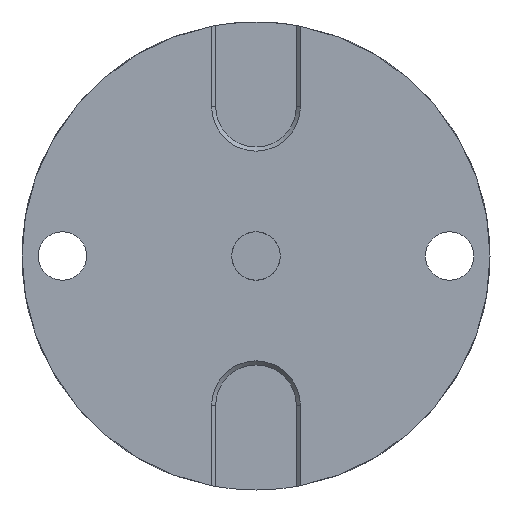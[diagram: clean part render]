
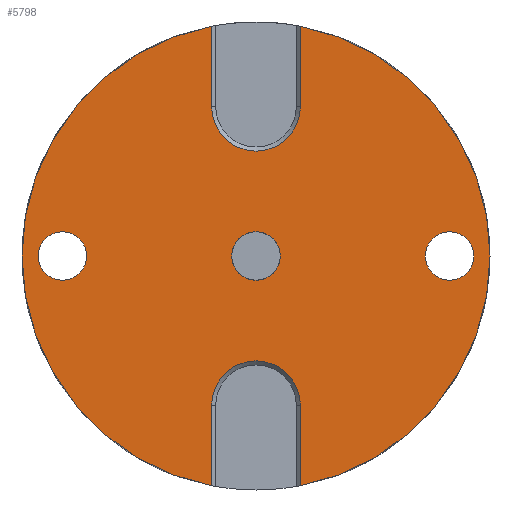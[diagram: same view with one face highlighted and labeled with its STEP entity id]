
A CAD part, front view. The second image highlights one B-rep face of the part: STEP entity #5798.
In plain terms, the highlighted planar face has unit normal (0, -1, 0).
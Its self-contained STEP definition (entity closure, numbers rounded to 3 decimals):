
#105 = CARTESIAN_POINT ( 'NONE',  ( 11., 0., 37. ) ) ;
#154 = AXIS2_PLACEMENT_3D ( 'NONE', #7487, #425, #3931 ) ;
#164 = FACE_BOUND ( 'NONE', #4778, .T. ) ;
#170 = CIRCLE ( 'NONE', #4146, 6. ) ;
#219 = CARTESIAN_POINT ( 'NONE',  ( 0., 0., -37. ) ) ;
#229 = DIRECTION ( 'NONE',  ( 0., 0., -1. ) ) ;
#241 = CARTESIAN_POINT ( 'NONE',  ( -11., 0., 0. ) ) ;
#363 = ORIENTED_EDGE ( 'NONE', *, *, #3013, .T. ) ;
#425 = DIRECTION ( 'NONE',  ( 0., 1., 0. ) ) ;
#631 = DIRECTION ( 'NONE',  ( 0., -1., 0. ) ) ;
#644 = DIRECTION ( 'NONE',  ( 0., 0., -1. ) ) ;
#646 = CARTESIAN_POINT ( 'NONE',  ( -48., 0., 6. ) ) ;
#656 = VERTEX_POINT ( 'NONE', #6804 ) ;
#823 = CARTESIAN_POINT ( 'NONE',  ( -11., 0., 0. ) ) ;
#845 = DIRECTION ( 'NONE',  ( 0., 0., -1. ) ) ;
#1019 = AXIS2_PLACEMENT_3D ( 'NONE', #6642, #7388, #229 ) ;
#1083 = LINE ( 'NONE', #7608, #7536 ) ;
#1211 = VECTOR ( 'NONE', #7651, 1000. ) ;
#1219 = ORIENTED_EDGE ( 'NONE', *, *, #2614, .T. ) ;
#1242 = CARTESIAN_POINT ( 'NONE',  ( 11., 0., -56.947 ) ) ;
#1247 = EDGE_CURVE ( 'NONE', #6300, #4634, #6338, .T. ) ;
#1349 = EDGE_CURVE ( 'NONE', #4657, #6277, #5133, .T. ) ;
#1402 = VERTEX_POINT ( 'NONE', #4051 ) ;
#1403 = CIRCLE ( 'NONE', #7675, 6. ) ;
#1466 = VECTOR ( 'NONE', #6266, 1000. ) ;
#1492 = VERTEX_POINT ( 'NONE', #1242 ) ;
#1600 = ORIENTED_EDGE ( 'NONE', *, *, #3274, .T. ) ;
#1668 = DIRECTION ( 'NONE',  ( 0., 0., -1. ) ) ;
#1685 = CARTESIAN_POINT ( 'NONE',  ( -11., 0., 56.947 ) ) ;
#1708 = EDGE_LOOP ( 'NONE', ( #3229, #1736 ) ) ;
#1732 = DIRECTION ( 'NONE',  ( 0., 0., -1. ) ) ;
#1736 = ORIENTED_EDGE ( 'NONE', *, *, #6564, .T. ) ;
#1759 = DIRECTION ( 'NONE',  ( 0., 1., 0. ) ) ;
#2064 = DIRECTION ( 'NONE',  ( 0., 0., 1. ) ) ;
#2354 = EDGE_CURVE ( 'NONE', #3874, #1402, #1403, .T. ) ;
#2418 = CARTESIAN_POINT ( 'NONE',  ( 0., 0., 0. ) ) ;
#2447 = CARTESIAN_POINT ( 'NONE',  ( 0., 0., 0. ) ) ;
#2471 = CIRCLE ( 'NONE', #7706, 58. ) ;
#2545 = CARTESIAN_POINT ( 'NONE',  ( 48., 0., 0. ) ) ;
#2614 = EDGE_CURVE ( 'NONE', #7218, #3777, #6929, .T. ) ;
#2656 = EDGE_CURVE ( 'NONE', #3777, #6356, #6102, .T. ) ;
#2657 = EDGE_LOOP ( 'NONE', ( #4667, #5220 ) ) ;
#2670 = AXIS2_PLACEMENT_3D ( 'NONE', #2545, #6113, #6724 ) ;
#2883 = VERTEX_POINT ( 'NONE', #7215 ) ;
#2887 = CIRCLE ( 'NONE', #6885, 6. ) ;
#2888 = CARTESIAN_POINT ( 'NONE',  ( 48., 0., 6. ) ) ;
#2927 = DIRECTION ( 'NONE',  ( 0., 0., -1. ) ) ;
#2937 = DIRECTION ( 'NONE',  ( 0., 1., 0. ) ) ;
#2963 = DIRECTION ( 'NONE',  ( 0., 0., -1. ) ) ;
#3013 = EDGE_CURVE ( 'NONE', #4634, #3707, #3489, .T. ) ;
#3075 = CARTESIAN_POINT ( 'NONE',  ( 0., 0., -6. ) ) ;
#3229 = ORIENTED_EDGE ( 'NONE', *, *, #5320, .T. ) ;
#3241 = CARTESIAN_POINT ( 'NONE',  ( -11., 0., 37. ) ) ;
#3274 = EDGE_CURVE ( 'NONE', #6356, #1492, #4131, .T. ) ;
#3314 = DIRECTION ( 'NONE',  ( 0., 0., -1. ) ) ;
#3439 = AXIS2_PLACEMENT_3D ( 'NONE', #7045, #5824, #1668 ) ;
#3489 = LINE ( 'NONE', #823, #5919 ) ;
#3589 = CARTESIAN_POINT ( 'NONE',  ( 0., 0., 0. ) ) ;
#3613 = CARTESIAN_POINT ( 'NONE',  ( -11., 0., -37. ) ) ;
#3690 = CARTESIAN_POINT ( 'NONE',  ( 0., 0., 0. ) ) ;
#3707 = VERTEX_POINT ( 'NONE', #1685 ) ;
#3713 = DIRECTION ( 'NONE',  ( 0., 0., 1. ) ) ;
#3736 = DIRECTION ( 'NONE',  ( 0., -1., 0. ) ) ;
#3777 = VERTEX_POINT ( 'NONE', #5358 ) ;
#3811 = ORIENTED_EDGE ( 'NONE', *, *, #4430, .F. ) ;
#3823 = EDGE_CURVE ( 'NONE', #1402, #3874, #170, .T. ) ;
#3874 = VERTEX_POINT ( 'NONE', #3075 ) ;
#3931 = DIRECTION ( 'NONE',  ( 0., 0., -1. ) ) ;
#4051 = CARTESIAN_POINT ( 'NONE',  ( 0., 0., 6. ) ) ;
#4131 = LINE ( 'NONE', #7063, #1211 ) ;
#4143 = EDGE_CURVE ( 'NONE', #2883, #3707, #2471, .T. ) ;
#4146 = AXIS2_PLACEMENT_3D ( 'NONE', #3690, #3736, #3713 ) ;
#4208 = CARTESIAN_POINT ( 'NONE',  ( -48., 0., 0. ) ) ;
#4219 = DIRECTION ( 'NONE',  ( 0., 0., 1. ) ) ;
#4398 = DIRECTION ( 'NONE',  ( 0., 1., 0. ) ) ;
#4430 = EDGE_CURVE ( 'NONE', #4923, #1492, #6309, .T. ) ;
#4441 = ORIENTED_EDGE ( 'NONE', *, *, #2354, .F. ) ;
#4534 = ORIENTED_EDGE ( 'NONE', *, *, #6757, .T. ) ;
#4634 = VERTEX_POINT ( 'NONE', #3241 ) ;
#4657 = VERTEX_POINT ( 'NONE', #5204 ) ;
#4667 = ORIENTED_EDGE ( 'NONE', *, *, #1349, .T. ) ;
#4740 = EDGE_LOOP ( 'NONE', ( #6111, #363, #5234, #4534, #1219, #5969, #1600, #3811, #6889 ) ) ;
#4778 = EDGE_LOOP ( 'NONE', ( #5691, #4441 ) ) ;
#4852 = CARTESIAN_POINT ( 'NONE',  ( 11., 0., 56.947 ) ) ;
#4923 = VERTEX_POINT ( 'NONE', #4852 ) ;
#4944 = VERTEX_POINT ( 'NONE', #2888 ) ;
#4997 = CIRCLE ( 'NONE', #2670, 6. ) ;
#5133 = CIRCLE ( 'NONE', #3439, 6. ) ;
#5168 = DIRECTION ( 'NONE',  ( 0., 0., -1. ) ) ;
#5204 = CARTESIAN_POINT ( 'NONE',  ( -48., 0., -6. ) ) ;
#5216 = AXIS2_PLACEMENT_3D ( 'NONE', #4208, #6595, #644 ) ;
#5220 = ORIENTED_EDGE ( 'NONE', *, *, #7231, .T. ) ;
#5234 = ORIENTED_EDGE ( 'NONE', *, *, #4143, .F. ) ;
#5320 = EDGE_CURVE ( 'NONE', #656, #4944, #4997, .T. ) ;
#5321 = CARTESIAN_POINT ( 'NONE',  ( 48., 0., 0. ) ) ;
#5358 = CARTESIAN_POINT ( 'NONE',  ( 0., 0., -26. ) ) ;
#5588 = AXIS2_PLACEMENT_3D ( 'NONE', #6871, #7581, #3314 ) ;
#5691 = ORIENTED_EDGE ( 'NONE', *, *, #3823, .F. ) ;
#5695 = AXIS2_PLACEMENT_3D ( 'NONE', #219, #4398, #845 ) ;
#5717 = DIRECTION ( 'NONE',  ( 0., 1., 0. ) ) ;
#5798 = ADVANCED_FACE ( 'NONE', ( #164, #7270, #6167, #7177 ), #7180, .F. ) ;
#5824 = DIRECTION ( 'NONE',  ( 0., 1., 0. ) ) ;
#5919 = VECTOR ( 'NONE', #2064, 1000. ) ;
#5969 = ORIENTED_EDGE ( 'NONE', *, *, #2656, .T. ) ;
#6102 = CIRCLE ( 'NONE', #154, 11. ) ;
#6107 = CARTESIAN_POINT ( 'NONE',  ( 11., 0., -37. ) ) ;
#6111 = ORIENTED_EDGE ( 'NONE', *, *, #1247, .T. ) ;
#6113 = DIRECTION ( 'NONE',  ( 0., 1., 0. ) ) ;
#6167 = FACE_BOUND ( 'NONE', #1708, .T. ) ;
#6266 = DIRECTION ( 'NONE',  ( 0., 0., 1. ) ) ;
#6277 = VERTEX_POINT ( 'NONE', #646 ) ;
#6300 = VERTEX_POINT ( 'NONE', #105 ) ;
#6309 = CIRCLE ( 'NONE', #7441, 58. ) ;
#6338 = CIRCLE ( 'NONE', #5588, 11. ) ;
#6356 = VERTEX_POINT ( 'NONE', #6107 ) ;
#6564 = EDGE_CURVE ( 'NONE', #4944, #656, #2887, .T. ) ;
#6595 = DIRECTION ( 'NONE',  ( 0., 1., 0. ) ) ;
#6642 = CARTESIAN_POINT ( 'NONE',  ( 0., 0., 0. ) ) ;
#6724 = DIRECTION ( 'NONE',  ( 0., 0., -1. ) ) ;
#6757 = EDGE_CURVE ( 'NONE', #2883, #7218, #7066, .T. ) ;
#6804 = CARTESIAN_POINT ( 'NONE',  ( 48., 0., -6. ) ) ;
#6871 = CARTESIAN_POINT ( 'NONE',  ( 0., 0., 37. ) ) ;
#6885 = AXIS2_PLACEMENT_3D ( 'NONE', #5321, #2937, #2963 ) ;
#6889 = ORIENTED_EDGE ( 'NONE', *, *, #7400, .T. ) ;
#6929 = CIRCLE ( 'NONE', #5695, 11. ) ;
#7045 = CARTESIAN_POINT ( 'NONE',  ( -48., 0., 0. ) ) ;
#7063 = CARTESIAN_POINT ( 'NONE',  ( 11., 0., 0. ) ) ;
#7066 = LINE ( 'NONE', #241, #1466 ) ;
#7177 = FACE_OUTER_BOUND ( 'NONE', #4740, .T. ) ;
#7180 = PLANE ( 'NONE',  #1019 ) ;
#7215 = CARTESIAN_POINT ( 'NONE',  ( -11., 0., -56.947 ) ) ;
#7218 = VERTEX_POINT ( 'NONE', #3613 ) ;
#7231 = EDGE_CURVE ( 'NONE', #6277, #4657, #7638, .T. ) ;
#7270 = FACE_BOUND ( 'NONE', #2657, .T. ) ;
#7388 = DIRECTION ( 'NONE',  ( 0., 1., 0. ) ) ;
#7400 = EDGE_CURVE ( 'NONE', #4923, #6300, #1083, .T. ) ;
#7441 = AXIS2_PLACEMENT_3D ( 'NONE', #3589, #1759, #1732 ) ;
#7487 = CARTESIAN_POINT ( 'NONE',  ( 0., 0., -37. ) ) ;
#7536 = VECTOR ( 'NONE', #5168, 1000. ) ;
#7581 = DIRECTION ( 'NONE',  ( 0., 1., 0. ) ) ;
#7608 = CARTESIAN_POINT ( 'NONE',  ( 11., 0., 0. ) ) ;
#7638 = CIRCLE ( 'NONE', #5216, 6. ) ;
#7651 = DIRECTION ( 'NONE',  ( 0., 0., -1. ) ) ;
#7675 = AXIS2_PLACEMENT_3D ( 'NONE', #2447, #631, #4219 ) ;
#7706 = AXIS2_PLACEMENT_3D ( 'NONE', #2418, #5717, #2927 ) ;
